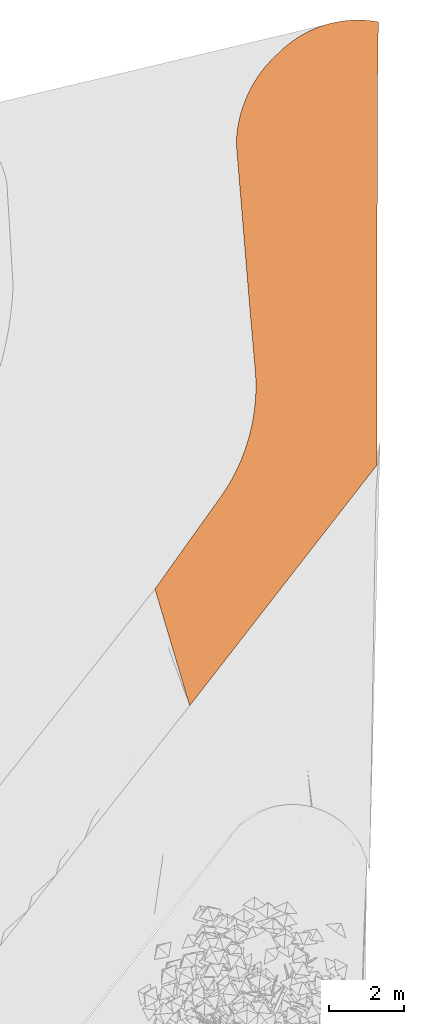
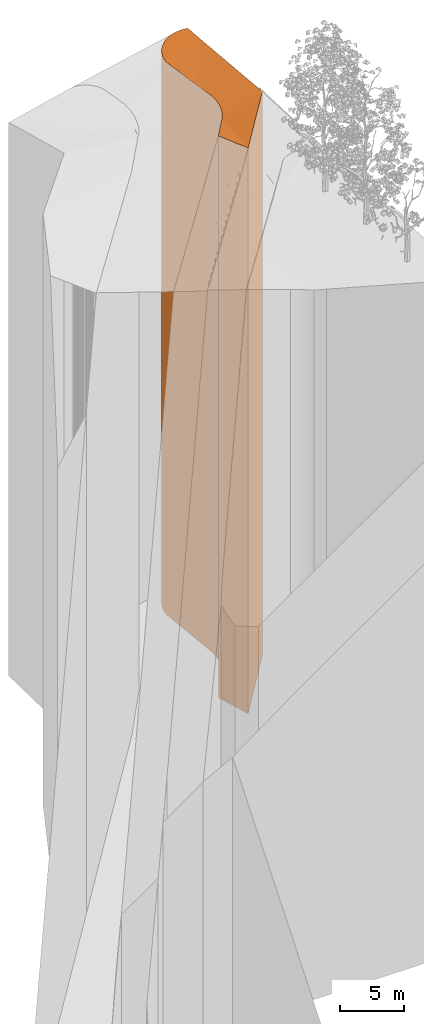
# One storey, part 69 of 69: 1 proxy.
"""IFC2X3 building model written with IfcOpenShell, lengths in millimetres."""

import ifcopenshell
import ifcopenshell.guid

model = None  # the IFC model being written
_history = None  # IfcOwnerHistory: only IFC2X3 demands one
_inside = {}  # id of a spatial element -> (the spatial element, [elements in it])
_under = {}  # id of a project, library or spatial element -> (it, [spatial elements below it])
_declared = {}  # id of a project -> (the project, [libraries it declares])
_typed = {}  # id of a type object -> (the type object, [elements of that type])
_made_of = {}  # id of a material, layer set ... -> (it, [elements and type objects made of it])


def new_model(schema):
    """Start an empty IFC model of exactly this schema.

    Asked for "IFC4X3", IfcOpenShell would pick the latest addendum, in which some entities
    have other attributes; the version numbers below select the first issue.
    IFC2X3 requires an IfcOwnerHistory on every rooted entity: one is made here for all.
    """
    global model, _history
    if schema == "IFC4X3":
        model = ifcopenshell.file(schema_version=(4, 3, 0, 0))
    else:
        model = ifcopenshell.file(schema=schema)
    _inside.clear()
    _under.clear()
    _declared.clear()
    _typed.clear()
    _made_of.clear()
    _history = None
    if model.schema == "IFC2X3":
        org = make("IfcOrganization", Name="unknown")
        user = make(
            "IfcPersonAndOrganization",
            ThePerson=make("IfcPerson", FamilyName="unknown"),
            TheOrganization=org,
        )
        app = make(
            "IfcApplication",
            ApplicationDeveloper=org,
            Version="unknown",
            ApplicationFullName="unknown",
            ApplicationIdentifier="unknown",
        )
        _history = make(
            "IfcOwnerHistory",
            OwningUser=user,
            OwningApplication=app,
            ChangeAction="ADDED",
            CreationDate=0,
        )
    return model


def make(cls, **values):
    """One entity of the class cls with the attributes given. An attribute that is None is left unset."""
    return model.create_entity(
        cls, **{name: value for name, value in values.items() if value is not None}
    )


def entity(cls, *values):
    """Any entity or typed value of the class cls, its attributes in the order of the schema. None: left unset."""
    e = model.create_entity(cls)
    for i, value in enumerate(values):
        if value is not None:
            e[i] = value
    return e


def rooted(cls, **values):
    """An entity with a GlobalId (a new one), such as an element, a storey or a relation."""
    return make(cls, GlobalId=ifcopenshell.guid.new(), OwnerHistory=_history, **values)


def si_unit(unit_type, name, prefix=None):
    """IfcSIUnit, for example si_unit("LENGTHUNIT", "METRE", prefix="MILLI")."""
    return make("IfcSIUnit", UnitType=unit_type, Prefix=prefix, Name=name)


def converted_unit(unit_type, name, factor, base, dimensions=None, offset=None):
    """IfcConversionBasedUnit, such as the inch: factor (a typed value) times the base unit."""
    return make(
        "IfcConversionBasedUnit"
        if offset is None
        else "IfcConversionBasedUnitWithOffset",
        ConversionOffset=offset,
        Dimensions=None
        if dimensions is None
        else entity("IfcDimensionalExponents", *dimensions),
        UnitType=unit_type,
        Name=name,
        ConversionFactor=make(
            "IfcMeasureWithUnit", ValueComponent=factor, UnitComponent=base
        ),
    )


def derived_unit(unit_type, elements):
    """IfcDerivedUnit: a product of units, each with its exponent."""
    return make(
        "IfcDerivedUnit",
        Elements=[
            make("IfcDerivedUnitElement", Unit=unit, Exponent=power)
            for unit, power in elements
        ],
        UnitType=unit_type,
    )


def money_unit(currency):
    """IfcMonetaryUnit."""
    return make("IfcMonetaryUnit", Currency=currency)


def assignment(units):
    """IfcUnitAssignment: the units of a project."""
    return None if units is None else make("IfcUnitAssignment", Units=units)


def point(xyz):
    """IfcCartesianPoint."""
    return None if xyz is None else make("IfcCartesianPoint", Coordinates=xyz)


def direction(xyz):
    """IfcDirection."""
    return None if xyz is None else make("IfcDirection", DirectionRatios=xyz)


def frame(location, z_axis=None, x_axis=None):
    """IfcAxis2Placement3D, a coordinate frame: its origin and axes. An axis left out is left unset."""
    return make(
        "IfcAxis2Placement3D",
        Location=point(location),
        Axis=direction(z_axis),
        RefDirection=direction(x_axis),
    )


def origin_with_axes():
    """The frame at (0, 0, 0) with the z axis (0, 0, 1) and the x axis (1, 0, 0) written out."""
    return frame((0.0, 0.0, 0.0), z_axis=(0.0, 0.0, 1.0), x_axis=(1.0, 0.0, 0.0))


def place(relative_to, where):
    """IfcLocalPlacement: puts the frame where relative to a parent placement (None: the world)."""
    return make(
        "IfcLocalPlacement", PlacementRelTo=relative_to, RelativePlacement=where
    )


def context(
    kind, dimensions, precision=None, world=None, true_north=None, identifier=None
):
    """IfcGeometricRepresentationContext, for example the 3D "Model" context."""
    return make(
        "IfcGeometricRepresentationContext",
        ContextIdentifier=identifier,
        ContextType=kind,
        CoordinateSpaceDimension=dimensions,
        Precision=precision,
        WorldCoordinateSystem=world,
        TrueNorth=true_north,
    )


def subcontext(parent, identifier, kind, view, scale=None):
    """IfcGeometricRepresentationSubContext, for example "Body" below "Model"."""
    return make(
        "IfcGeometricRepresentationSubContext",
        ContextIdentifier=identifier,
        ContextType=kind,
        ParentContext=parent,
        TargetScale=scale,
        TargetView=view,
    )


def project(units=None, contexts=None):
    """IfcProject with its units and contexts."""
    return rooted(
        "IfcProject",
        Name="project",
        RepresentationContexts=contexts,
        UnitsInContext=assignment(units),
    )


def spatial(cls, under=None, at=None, **own):
    """A site, building, storey or space (cls), placed at a placement, below another one or the project."""
    s = rooted(cls, ObjectPlacement=at, **own)
    if under is not None:
        _under.setdefault(under.id(), (under, []))[1].append(s)
    return s


def faces_of(points, faces, orient=None, outer=None):
    """IfcFace entities. A face is a list of loops; a loop is a list of indices into points, from 0.

    orient and outer hold one flag for each loop. By default every Orientation is true, the
    first loop of a face is its IfcFaceOuterBound and the others are IfcFaceBound.
    """
    made = []
    for i, loops in enumerate(faces):
        bounds = []
        for j, loop in enumerate(loops):
            is_outer = j == 0 if outer is None else outer[i][j]
            bounds.append(
                make(
                    "IfcFaceOuterBound" if is_outer else "IfcFaceBound",
                    Bound=make("IfcPolyLoop", Polygon=[points[k] for k in loop]),
                    Orientation=True if orient is None else orient[i][j],
                )
            )
        made.append(make("IfcFace", Bounds=bounds))
    return made


def faceted_brep(points, faces, orient=None, outer=None, voids=None):
    """IfcFacetedBrep: a solid bounded by flat faces; with voids (closed shells), ...WithVoids."""
    shared = [point(p) for p in points]
    hull = make("IfcClosedShell", CfsFaces=faces_of(shared, faces, orient, outer))
    if voids is None:
        return make("IfcFacetedBrep", Outer=hull)
    return make(
        "IfcFacetedBrepWithVoids",
        Outer=hull,
        Voids=[
            make(cls, CfsFaces=faces_of(shared, fs, o, b)) for cls, fs, o, b in voids
        ],
    )


def shape(context_of_items, identifier, shape_type, items):
    """IfcShapeRepresentation: the items that make up one representation, for example the "Body"."""
    return make(
        "IfcShapeRepresentation",
        ContextOfItems=context_of_items,
        RepresentationIdentifier=identifier,
        RepresentationType=shape_type,
        Items=items,
    )


def material(Name=None, Category=None):
    """IfcMaterial."""
    return make("IfcMaterial", Name=Name, Category=Category)


def made_of(thing, what):
    """Note that an element or type object is made of a material, layer set ...; save() writes the relation."""
    if what is not None:
        _made_of.setdefault(what.id(), (what, []))[1].append(thing)
    return thing


def type_object(cls, material=None, **own):
    """A type object (cls), such as IfcWallType, which elements share."""
    return made_of(rooted(cls, **own), material)


def element(
    cls,
    number,
    at=None,
    inside=None,
    cuts=None,
    type_object=None,
    material=None,
    context=None,
    identifier="Body",
    shape_type=None,
    held_by="IfcProductDefinitionShape",
    body=None,
    shapes=None,
    **own,
):
    """One element of the class cls, such as IfcWall. Its Tag is "e" and its number.

    at: its placement. inside: the storey or other place that contains it. cuts: it is an
    opening in that element (IfcRelVoidsElement). A single representation is given by context,
    identifier, shape_type and body (its items); several are given by shapes. held_by: the class
    of the entity that holds the representations. save() writes the other relations.
    """
    e = rooted(cls, Tag="e%d" % number, ObjectPlacement=at, **own)
    if body is not None:
        shapes = [shape(context, identifier, shape_type, body)]
    if shapes is not None:
        e.Representation = make(held_by, Representations=shapes)
    if inside is not None:
        _inside.setdefault(inside.id(), (inside, []))[1].append(e)
    if cuts is not None:
        rooted(
            "IfcRelVoidsElement", RelatingBuildingElement=cuts, RelatedOpeningElement=e
        )
    if type_object is not None:
        _typed.setdefault(type_object.id(), (type_object, []))[1].append(e)
    return made_of(e, material)


def aggregate(whole, parts):
    """IfcRelAggregates: a whole, such as a stair, and the parts it consists of."""
    return rooted("IfcRelAggregates", RelatingObject=whole, RelatedObjects=parts)


def save(model, path):
    """Write the relations noted so far, then the file.

    IfcRelAggregates (storeys below a building ...), IfcRelContainedInSpatialStructure (elements
    in a storey), IfcRelDefinesByType, IfcRelAssociatesMaterial and IfcRelDeclares: one each for
    every whole, place, type object, material and project.
    """
    for whole, parts in _under.values():
        aggregate(whole, parts)
    for where, things in _inside.values():
        rooted(
            "IfcRelContainedInSpatialStructure",
            RelatedElements=things,
            RelatingStructure=where,
        )
    for kind, things in _typed.values():
        rooted("IfcRelDefinesByType", RelatedObjects=things, RelatingType=kind)
    for what, things in _made_of.values():
        rooted("IfcRelAssociatesMaterial", RelatedObjects=things, RelatingMaterial=what)
    for by, libraries in _declared.values():
        rooted("IfcRelDeclares", RelatingContext=by, RelatedDefinitions=libraries)
    model.write(path)


model = new_model("IFC2X3")

# Units and contexts
model_context = context("Model", 3, precision=0.01, world=origin_with_axes(), true_north=direction((0.0, 1.0)))
body_context = subcontext(model_context, "Body", "Model", "MODEL_VIEW")
ifc_project = project(units=[si_unit("LENGTHUNIT", "METRE", prefix="MILLI"), si_unit("AREAUNIT", "SQUARE_METRE"), si_unit("VOLUMEUNIT", "CUBIC_METRE"), converted_unit("PLANEANGLEUNIT", "DEGREE", entity("IfcPlaneAngleMeasure", 0.0174532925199), si_unit("PLANEANGLEUNIT", "RADIAN"), dimensions=[0, 0, 0, 0, 0, 0, 0]), si_unit("SOLIDANGLEUNIT", "STERADIAN"), money_unit("EUR"), converted_unit("TIMEUNIT", "Year", entity("IfcTimeMeasure", 31556926.0), si_unit("TIMEUNIT", "SECOND"), dimensions=[0, 0, 1, 0, 0, 0, 0]), si_unit("MASSUNIT", "GRAM", prefix="KILO"), si_unit("THERMODYNAMICTEMPERATUREUNIT", "DEGREE_CELSIUS"), si_unit("LUMINOUSINTENSITYUNIT", "LUMEN"), si_unit("ENERGYUNIT", "JOULE", prefix="MEGA"), derived_unit("THERMALCONDUCTANCEUNIT", [(si_unit("POWERUNIT", "WATT"), 1), (si_unit("LENGTHUNIT", "METRE"), -1), (si_unit("THERMODYNAMICTEMPERATUREUNIT", "KELVIN"), -1)]), derived_unit("SPECIFICHEATCAPACITYUNIT", [(si_unit("ENERGYUNIT", "JOULE"), 1), (si_unit("MASSUNIT", "GRAM", prefix="KILO"), -1), (si_unit("THERMODYNAMICTEMPERATUREUNIT", "KELVIN"), -1)]), derived_unit("MASSDENSITYUNIT", [(si_unit("MASSUNIT", "GRAM", prefix="KILO"), 1), (si_unit("VOLUMEUNIT", "CUBIC_METRE"), -1)])], contexts=[model_context])

# Site, building, storey
site_placement = place(None, origin_with_axes())
site = spatial("IfcSite", under=ifc_project, at=site_placement, Name="Puškini 31, Narva", CompositionType="ELEMENT")
building_placement = place(site_placement, origin_with_axes())
building = spatial("IfcBuilding", under=site, at=building_placement, Name="Narva Riigigümnaasium", CompositionType="ELEMENT")
storey_placement = place(building_placement, origin_with_axes())
storey = spatial("IfcBuildingStorey", under=building, at=storey_placement, Name="1.korrus 0.00", CompositionType="ELEMENT", Elevation=0.0)

# Proxy
ifc_material = material(Name="Roheala")
building_element_proxy_type = type_object("IfcBuildingElementProxyType", Name="Roheala", PredefinedType="NOTDEFINED")
proxy_placement = place(storey_placement, frame((58584.8991001, 290987.933951, -61100.0), z_axis=(0.0, 0.0, 1.0), x_axis=(1.0, 0.0, 0.0)))
element("IfcBuildingElementProxy", 1, at=proxy_placement, inside=storey, type_object=building_element_proxy_type, material=ifc_material, Name="Roheala", context=body_context, shape_type="Brep", body=[
    faceted_brep([(3090.35718458, 17177.3935569, 53028.3516141), (5919.88325178, 16077.0951752, 53200.0), (3221.05482527, 17306.3824764, 53030.3750983), (2966.9637168, 17041.4006647, 53026.2896534), (3289.85726984, 17367.1790822, 53031.3645296), (3090.35718458, 17177.3935569, 0.0), (3221.05482527, 17306.3824764, 0.0), (2851.24916383, 16898.8168057, 53024.1954785), (2966.9637168, 17041.4006647, 0.0), (3289.85726984, 17367.1790822, 0.0), (3316.49431271, 17395.4337422, 53030.9829319), (3316.49431271, 17395.4337422, 0.0), (3443.54338583, 17513.0394649, 0.0), (3577.21567666, 17623.0589707, 0.0), (3717.05888046, 17725.1199885, 0.0), (3862.59981212, 17818.877176, 0.0), (4013.34600718, 17904.0132886, 0.0), (4168.78738824, 17980.2402526, 0.0), (4328.39799086, 18047.3001402, 0.0), (4491.6377433, 18104.9660419, 0.0), (4657.95429391, 18153.0428345, 0.0), (4826.78488011, 18191.3678415, 0.0), (4997.55823266, 18219.811383, 0.0), (5169.69650857, 18238.2772152, 0.0), (5342.61724643, 18246.7028556, 0.0), (5515.73533718, 18245.0597943, 0.0), (5688.465004, 18233.3535911, 0.0), (5860.22178438, 18211.623856, 0.0), (5945.32314607, 18195.7839858, 0.0), (5919.88325178, 16077.0951752, 0.0), (5902.94131565, 6399.45188849, 0.0), (923.767622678, 0.0, 0.0), (0.0, 3106.34664825, 0.0), (1801.73087522, 5631.31787349, 0.0), (1865.56517501, 5725.71754097, 0.0), (1984.7575895, 5919.97929359, 0.0), (2095.24049415, 6119.32318735, 0.0), (2196.7976135, 6323.35899723, 0.0), (2289.23014471, 6531.68731353, 0.0), (2372.35714677, 6743.90032381, 0.0), (2446.01589465, 6959.58261113, 0.0), (2510.06219791, 7178.31196728, 0.0), (2564.37068289, 7399.66021927, 0.0), (2608.8350382, 7623.19406751, 0.0), (2643.36822275, 7848.475934, 0.0), (2667.90263623, 8075.06481889, 0.0), (2682.39025137, 8302.51716381, 0.0), (2686.80270798, 8530.38772011, 0.0), (2681.13136847, 8758.23042048, 0.0), (2672.8431273, 8877.87559571, 0.0), (2508.28160985, 10773.0347435, 0.0), (2165.46882965, 14948.7130016, 0.0), (2167.12511731, 15030.758227, 0.0), (2180.97133809, 15213.8655638, 0.0), (2204.8835067, 15395.9320979, 0.0), (2238.78900267, 15576.404899, 0.0), (2282.58485612, 15754.7358774, 0.0), (2336.1380605, 15930.3834477, 0.0), (2399.28597646, 16102.8141738, 0.0), (2471.83682588, 16271.5043896, 0.0), (2553.5702742, 16435.9417881, 0.0), (2644.23809963, 16595.6269786, 0.0), (2743.56494697, 16750.0750023, 0.0), (2851.24916383, 16898.8168057, 0.0), (2743.56494697, 16750.0750023, 53022.0754492), (3443.54338583, 17513.0394649, 53029.2204773), (3577.21567666, 17623.0589707, 53027.4122136), (3717.05888046, 17725.1199885, 53025.5642595), (3862.59981212, 17818.877176, 53023.6828679), (4013.34600718, 17904.0132886, 53021.7744048), (4168.78738824, 17980.2402526, 53019.8453278), (4328.39799086, 18047.3001402, 53017.9021643), (4491.6377433, 18104.9660419, 53015.9514894), (4657.95429391, 18153.0428345, 53013.9999035), (4826.78488011, 18191.3678415, 53012.0540102), (4997.55823266, 18219.811383, 53010.1203938), (5169.69650857, 18238.2772152, 53008.2055969), (5342.61724643, 18246.7028556, 53006.3160988), (5515.73533718, 18245.0597943, 53004.4582928), (5688.465004, 18233.3535911, 53002.6384651), (5860.22178438, 18211.623856, 53000.8627735), (5945.32314607, 18195.7839858, 53000.0), (5902.94131565, 6399.45188849, 54100.0), (923.767622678, 0.0, 54300.0), (0.0, 3106.34664825, 53900.0), (1801.73087522, 5631.31787349, 53400.0), (1865.56517501, 5725.71754097, 53398.397727), (1984.7575895, 5919.97929359, 53395.1473788), (2095.24049415, 6119.32318735, 53391.8575912), (2196.7976135, 6323.35899723, 53388.534804), (2289.23014471, 6531.68731353, 53385.1855219), (2372.35714677, 6743.90032381, 53381.8163011), (2446.01589465, 6959.58261113, 53378.433737), (2510.06219791, 7178.31196728, 53375.0444513), (2564.37068289, 7399.66021927, 53371.6550786), (2608.8350382, 7623.19406751, 53368.2722537), (2643.36822275, 7848.475934, 53364.9025986), (2667.90263623, 8075.06481889, 53361.5527097), (2682.39025137, 8302.51716381, 53358.2291446), (2686.80270798, 8530.38772011, 53354.9384091), (2681.13136847, 8758.23042048, 53351.6869452), (2672.8431273, 8877.87559571, 53350.0), (2508.28160985, 10773.0347435, 53200.0), (2165.46882965, 14948.7130016, 53000.0), (2167.12511731, 15030.758227, 53000.8831256), (2180.97133809, 15213.8655638, 53002.9043927), (2204.8835067, 15395.9320979, 53004.9644658), (2238.78900267, 15576.404899, 53007.0570885), (2282.58485612, 15754.7358774, 53009.1759055), (2336.1380605, 15930.3834477, 53011.3144822), (2399.28597646, 16102.8141738, 53013.4663237), (2471.83682588, 16271.5043896, 53015.6248949), (2553.5702742, 16435.9417881, 53017.7836404), (2644.23809963, 16595.6269786, 53019.936004)], [[[0, 1, 2]], [[3, 1, 0]], [[4, 2, 1]], [[5, 0, 2, 6]], [[7, 1, 3]], [[8, 3, 0, 5]], [[6, 2, 4, 9]], [[4, 1, 10]], [[9, 11, 12, 13, 14, 15, 16, 17, 18, 19, 20, 21, 22, 23, 24, 25, 26, 27, 28, 29, 30, 31, 32, 33, 34, 35, 36, 37, 38, 39, 40, 41, 42, 43, 44, 45, 46, 47, 48, 49, 50, 51, 52, 53, 54, 55, 56, 57, 58, 59, 60, 61, 62, 63, 8, 5, 6]], [[64, 1, 7]], [[63, 7, 3, 8]], [[9, 4, 10, 11]], [[65, 10, 1]], [[11, 10, 65, 12]], [[12, 65, 66, 13]], [[13, 66, 67, 14]], [[14, 67, 68, 15]], [[15, 68, 69, 16]], [[16, 69, 70, 17]], [[17, 70, 71, 18]], [[18, 71, 72, 19]], [[19, 72, 73, 20]], [[20, 73, 74, 21]], [[21, 74, 75, 22]], [[22, 75, 76, 23]], [[23, 76, 77, 24]], [[24, 77, 78, 25]], [[25, 78, 79, 26]], [[26, 79, 80, 27]], [[27, 80, 81, 28]], [[28, 81, 1, 29]], [[29, 1, 82, 30]], [[30, 82, 83, 31]], [[31, 83, 84, 32]], [[32, 84, 85, 33]], [[33, 85, 86, 34]], [[34, 86, 87, 35]], [[35, 87, 88, 36]], [[36, 88, 89, 37]], [[37, 89, 90, 38]], [[38, 90, 91, 39]], [[39, 91, 92, 40]], [[40, 92, 93, 41]], [[41, 93, 94, 42]], [[42, 94, 95, 43]], [[43, 95, 96, 44]], [[44, 96, 97, 45]], [[45, 97, 98, 46]], [[46, 98, 99, 47]], [[47, 99, 100, 48]], [[48, 100, 101, 49]], [[49, 101, 102, 50]], [[50, 102, 103, 51]], [[51, 103, 104, 52]], [[52, 104, 105, 53]], [[53, 105, 106, 54]], [[54, 106, 107, 55]], [[55, 107, 108, 56]], [[56, 108, 109, 57]], [[57, 109, 110, 58]], [[58, 110, 111, 59]], [[59, 111, 112, 60]], [[60, 112, 113, 61]], [[61, 113, 64, 62]], [[62, 64, 7, 63]], [[113, 1, 64]], [[66, 65, 1]], [[67, 66, 1]], [[68, 67, 1]], [[69, 68, 1]], [[70, 69, 1]], [[71, 70, 1]], [[72, 71, 1]], [[73, 72, 1]], [[74, 73, 1]], [[75, 74, 1]], [[76, 75, 1]], [[77, 76, 1]], [[78, 77, 1]], [[79, 78, 1]], [[80, 79, 1]], [[81, 80, 1]], [[82, 1, 102]], [[83, 82, 85]], [[84, 83, 85]], [[86, 85, 82]], [[87, 86, 82]], [[88, 87, 82]], [[89, 88, 82]], [[90, 89, 82]], [[91, 90, 82]], [[92, 91, 82]], [[93, 92, 82]], [[94, 93, 82]], [[95, 94, 82]], [[96, 95, 82]], [[97, 96, 82]], [[98, 97, 82]], [[99, 98, 82]], [[100, 99, 82]], [[101, 100, 82]], [[102, 101, 82]], [[102, 1, 103]], [[103, 1, 104]], [[105, 104, 1]], [[106, 105, 1]], [[107, 106, 1]], [[108, 107, 1]], [[109, 108, 1]], [[110, 109, 1]], [[111, 110, 1]], [[111, 1, 112]], [[112, 1, 113]]]),
])

save(model, "model.ifc")
